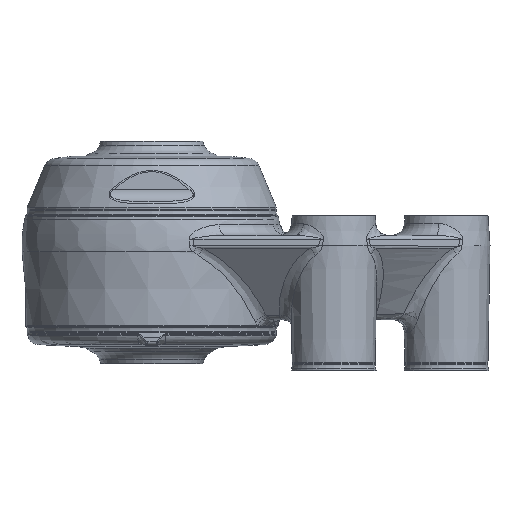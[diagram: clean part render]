
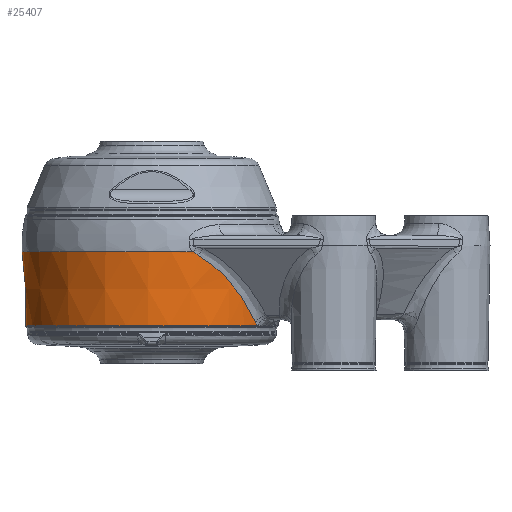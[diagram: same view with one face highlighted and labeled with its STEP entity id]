
A CAD part, left-side view. The second image highlights one B-rep face of the part: STEP entity #25407.
In plain terms, the highlighted conical face has half-angle 2.646 degrees and reference radius 33 mm.
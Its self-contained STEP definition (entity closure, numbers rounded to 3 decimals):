
#666 = CARTESIAN_POINT ( 'NONE',  ( 18.222, -26.282, -13.044 ) ) ;
#682 = DIRECTION ( 'NONE',  ( 0., 0., -1. ) ) ;
#806 = CARTESIAN_POINT ( 'NONE',  ( -30.663, -11.563, 4.011 ) ) ;
#1042 = B_SPLINE_CURVE_WITH_KNOTS ( 'NONE', 3,
 ( #23379, #33183, #10362, #27863, #7293, #30945 ),
 .UNSPECIFIED., .F., .F.,
 ( 4, 2, 4 ),
 ( 0., 0.001, 0.002 ),
 .UNSPECIFIED. ) ;
#1240 = CARTESIAN_POINT ( 'NONE',  ( 18.222, -26.282, -13.044 ) ) ;
#1550 = CARTESIAN_POINT ( 'NONE',  ( -18.222, -26.282, -13.044 ) ) ;
#1634 = CARTESIAN_POINT ( 'NONE',  ( -27.095, -18.111, -0.873 ) ) ;
#2136 = EDGE_CURVE ( 'NONE', #20628, #28940, #28516, .T. ) ;
#2402 = ORIENTED_EDGE ( 'NONE', *, *, #21071, .T. ) ;
#2836 = DIRECTION ( 'NONE',  ( 0., 1., 0. ) ) ;
#3552 = CARTESIAN_POINT ( 'NONE',  ( -30.566, -11.798, 3.878 ) ) ;
#4213 = CARTESIAN_POINT ( 'NONE',  ( -26.089, -19.412, -2.251 ) ) ;
#4378 = CONICAL_SURFACE ( 'NONE', #23506, 33., 0.046 ) ;
#4589 = CIRCLE ( 'NONE', #9504, 31.942 ) ;
#5191 = DIRECTION ( 'NONE',  ( 0., 1., 0. ) ) ;
#6137 = CIRCLE ( 'NONE', #25283, 32.807 ) ;
#6459 = EDGE_CURVE ( 'NONE', #28871, #20628, #22255, .T. ) ;
#6538 = CARTESIAN_POINT ( 'NONE',  ( -17.742, -26.577, -13.643 ) ) ;
#6878 = VERTEX_POINT ( 'NONE', #666 ) ;
#7293 = CARTESIAN_POINT ( 'NONE',  ( 30.663, -11.563, 4.011 ) ) ;
#7313 = B_SPLINE_CURVE_WITH_KNOTS ( 'NONE', 3,
 ( #7464, #22724, #30795, #30955, #23050, #19979, #33194, #23690, #14848, #20141 ),
 .UNSPECIFIED., .F., .F.,
 ( 4, 2, 2, 2, 4 ),
 ( 0., 0.006, 0.013, 0.019, 0.026 ),
 .UNSPECIFIED. ) ;
#7342 = ORIENTED_EDGE ( 'NONE', *, *, #9741, .T. ) ;
#7464 = CARTESIAN_POINT ( 'NONE',  ( 30.566, -11.798, 3.878 ) ) ;
#7612 = CARTESIAN_POINT ( 'NONE',  ( -20.589, -24.713, -9.793 ) ) ;
#9131 = CARTESIAN_POINT ( 'NONE',  ( 0., 31.942, -13.9 ) ) ;
#9504 = AXIS2_PLACEMENT_3D ( 'NONE', #27030, #22041, #27697 ) ;
#9741 = EDGE_CURVE ( 'NONE', #6878, #10011, #22836, .T. ) ;
#10011 = VERTEX_POINT ( 'NONE', #11994 ) ;
#10183 = CARTESIAN_POINT ( 'NONE',  ( -22.877, -22.818, -6.655 ) ) ;
#10362 = CARTESIAN_POINT ( 'NONE',  ( 30.93, -10.89, 4.466 ) ) ;
#10637 = EDGE_CURVE ( 'NONE', #12328, #14544, #30697, .T. ) ;
#11259 = CARTESIAN_POINT ( 'NONE',  ( -30.755, -11.334, 4.154 ) ) ;
#11865 = CARTESIAN_POINT ( 'NONE',  ( 17.993, -26.424, -13.359 ) ) ;
#11994 = CARTESIAN_POINT ( 'NONE',  ( 17.471, -26.74, -13.9 ) ) ;
#12092 = CARTESIAN_POINT ( 'NONE',  ( -28.976, -15.174, 1.704 ) ) ;
#12328 = VERTEX_POINT ( 'NONE', #9131 ) ;
#12390 = CARTESIAN_POINT ( 'NONE',  ( 0., 0., 9. ) ) ;
#12559 = DIRECTION ( 'NONE',  ( 0., 0., 1. ) ) ;
#12571 = CARTESIAN_POINT ( 'NONE',  ( 0., 0., 4.828 ) ) ;
#13267 = VERTEX_POINT ( 'NONE', #15585 ) ;
#13499 = ORIENTED_EDGE ( 'NONE', *, *, #2136, .T. ) ;
#14009 = CARTESIAN_POINT ( 'NONE',  ( -31.089, -10.477, 4.828 ) ) ;
#14356 = CIRCLE ( 'NONE', #33495, 32.807 ) ;
#14437 = CARTESIAN_POINT ( 'NONE',  ( 17.742, -26.577, -13.643 ) ) ;
#14544 = VERTEX_POINT ( 'NONE', #15235 ) ;
#14848 = CARTESIAN_POINT ( 'NONE',  ( 19.417, -25.546, -11.402 ) ) ;
#15235 = CARTESIAN_POINT ( 'NONE',  ( -17.471, -26.74, -13.9 ) ) ;
#15585 = CARTESIAN_POINT ( 'NONE',  ( 30.566, -11.798, 3.878 ) ) ;
#16851 = CARTESIAN_POINT ( 'NONE',  ( 31.089, -10.477, 4.828 ) ) ;
#17125 = ORIENTED_EDGE ( 'NONE', *, *, #10637, .T. ) ;
#17394 = CARTESIAN_POINT ( 'NONE',  ( -30.566, -11.798, 3.878 ) ) ;
#17951 = VERTEX_POINT ( 'NONE', #26820 ) ;
#18762 = CARTESIAN_POINT ( 'NONE',  ( 0., 0., -13.9 ) ) ;
#18999 = DIRECTION ( 'NONE',  ( 0., 1., 0. ) ) ;
#19399 = CARTESIAN_POINT ( 'NONE',  ( 17.471, -26.74, -13.9 ) ) ;
#19967 = VERTEX_POINT ( 'NONE', #16851 ) ;
#19979 = CARTESIAN_POINT ( 'NONE',  ( 23.98, -21.766, -5.142 ) ) ;
#20141 = CARTESIAN_POINT ( 'NONE',  ( 18.222, -26.282, -13.044 ) ) ;
#20268 = AXIS2_PLACEMENT_3D ( 'NONE', #18762, #28718, #2836 ) ;
#20425 = ORIENTED_EDGE ( 'NONE', *, *, #29632, .T. ) ;
#20628 = VERTEX_POINT ( 'NONE', #28203 ) ;
#20964 = CARTESIAN_POINT ( 'NONE',  ( -31.089, -10.477, 4.828 ) ) ;
#21071 = EDGE_CURVE ( 'NONE', #28940, #17951, #6137, .T. ) ;
#21582 = EDGE_CURVE ( 'NONE', #17951, #19967, #14356, .T. ) ;
#21701 = CARTESIAN_POINT ( 'NONE',  ( -30.93, -10.89, 4.466 ) ) ;
#21930 = EDGE_CURVE ( 'NONE', #13267, #6878, #7313, .T. ) ;
#22041 = DIRECTION ( 'NONE',  ( 0., 0., 1. ) ) ;
#22255 = B_SPLINE_CURVE_WITH_KNOTS ( 'NONE', 3,
 ( #33500, #23202, #7612, #10183, #27689, #4213, #1634, #12092, #22537, #17394 ),
 .UNSPECIFIED., .F., .F.,
 ( 4, 2, 2, 2, 4 ),
 ( 0., 0.006, 0.013, 0.019, 0.026 ),
 .UNSPECIFIED. ) ;
#22537 = CARTESIAN_POINT ( 'NONE',  ( -29.83, -13.574, 2.872 ) ) ;
#22724 = CARTESIAN_POINT ( 'NONE',  ( 29.83, -13.574, 2.872 ) ) ;
#22836 = B_SPLINE_CURVE_WITH_KNOTS ( 'NONE', 3,
 ( #1240, #11865, #14437, #19399 ),
 .UNSPECIFIED., .F., .F.,
 ( 4, 4 ),
 ( 0., 0.001 ),
 .UNSPECIFIED. ) ;
#22993 = FACE_OUTER_BOUND ( 'NONE', #24020, .T. ) ;
#23050 = CARTESIAN_POINT ( 'NONE',  ( 26.089, -19.412, -2.251 ) ) ;
#23202 = CARTESIAN_POINT ( 'NONE',  ( -19.417, -25.546, -11.402 ) ) ;
#23379 = CARTESIAN_POINT ( 'NONE',  ( 31.089, -10.477, 4.828 ) ) ;
#23506 = AXIS2_PLACEMENT_3D ( 'NONE', #12390, #12559, #25917 ) ;
#23690 = CARTESIAN_POINT ( 'NONE',  ( 20.589, -24.713, -9.793 ) ) ;
#24020 = EDGE_LOOP ( 'NONE', ( #20425, #17125, #28387, #30406, #13499, #2402, #30147, #31034, #31570, #7342 ) ) ;
#24159 = CARTESIAN_POINT ( 'NONE',  ( 0., 0., 4.828 ) ) ;
#24533 = CARTESIAN_POINT ( 'NONE',  ( -17.471, -26.74, -13.9 ) ) ;
#25283 = AXIS2_PLACEMENT_3D ( 'NONE', #12571, #28494, #5191 ) ;
#25407 = ADVANCED_FACE ( 'NONE', ( #22993 ), #4378, .T. ) ;
#25608 = EDGE_CURVE ( 'NONE', #14544, #28871, #33909, .T. ) ;
#25917 = DIRECTION ( 'NONE',  ( 0., -1., 0. ) ) ;
#26820 = CARTESIAN_POINT ( 'NONE',  ( 0., 32.807, 4.828 ) ) ;
#27030 = CARTESIAN_POINT ( 'NONE',  ( 0., 0., -13.9 ) ) ;
#27441 = CARTESIAN_POINT ( 'NONE',  ( -17.995, -26.422, -13.356 ) ) ;
#27689 = CARTESIAN_POINT ( 'NONE',  ( -23.98, -21.766, -5.142 ) ) ;
#27697 = DIRECTION ( 'NONE',  ( 0., 1., 0. ) ) ;
#27863 = CARTESIAN_POINT ( 'NONE',  ( 30.755, -11.334, 4.154 ) ) ;
#28191 = CARTESIAN_POINT ( 'NONE',  ( -18.222, -26.282, -13.044 ) ) ;
#28203 = CARTESIAN_POINT ( 'NONE',  ( -30.566, -11.798, 3.878 ) ) ;
#28387 = ORIENTED_EDGE ( 'NONE', *, *, #25608, .T. ) ;
#28494 = DIRECTION ( 'NONE',  ( 0., 0., -1. ) ) ;
#28516 = B_SPLINE_CURVE_WITH_KNOTS ( 'NONE', 3,
 ( #3552, #806, #11259, #21701, #32170, #14009 ),
 .UNSPECIFIED., .F., .F.,
 ( 4, 2, 4 ),
 ( 0., 0.001, 0.002 ),
 .UNSPECIFIED. ) ;
#28718 = DIRECTION ( 'NONE',  ( 0., 0., 1. ) ) ;
#28871 = VERTEX_POINT ( 'NONE', #28191 ) ;
#28940 = VERTEX_POINT ( 'NONE', #20964 ) ;
#29632 = EDGE_CURVE ( 'NONE', #10011, #12328, #4589, .T. ) ;
#29692 = EDGE_CURVE ( 'NONE', #19967, #13267, #1042, .T. ) ;
#30147 = ORIENTED_EDGE ( 'NONE', *, *, #21582, .T. ) ;
#30406 = ORIENTED_EDGE ( 'NONE', *, *, #6459, .T. ) ;
#30697 = CIRCLE ( 'NONE', #20268, 31.942 ) ;
#30795 = CARTESIAN_POINT ( 'NONE',  ( 28.976, -15.175, 1.703 ) ) ;
#30945 = CARTESIAN_POINT ( 'NONE',  ( 30.566, -11.798, 3.878 ) ) ;
#30955 = CARTESIAN_POINT ( 'NONE',  ( 27.095, -18.111, -0.873 ) ) ;
#31034 = ORIENTED_EDGE ( 'NONE', *, *, #29692, .T. ) ;
#31570 = ORIENTED_EDGE ( 'NONE', *, *, #21930, .T. ) ;
#32170 = CARTESIAN_POINT ( 'NONE',  ( -31.013, -10.676, 4.636 ) ) ;
#33183 = CARTESIAN_POINT ( 'NONE',  ( 31.013, -10.676, 4.636 ) ) ;
#33194 = CARTESIAN_POINT ( 'NONE',  ( 22.877, -22.818, -6.655 ) ) ;
#33495 = AXIS2_PLACEMENT_3D ( 'NONE', #24159, #682, #18999 ) ;
#33500 = CARTESIAN_POINT ( 'NONE',  ( -18.222, -26.282, -13.044 ) ) ;
#33909 = B_SPLINE_CURVE_WITH_KNOTS ( 'NONE', 3,
 ( #24533, #6538, #27441, #1550 ),
 .UNSPECIFIED., .F., .F.,
 ( 4, 4 ),
 ( 0.005, 0.006 ),
 .UNSPECIFIED. ) ;
